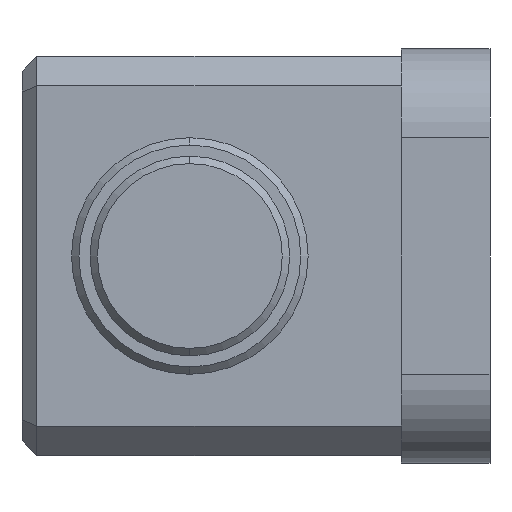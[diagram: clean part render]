
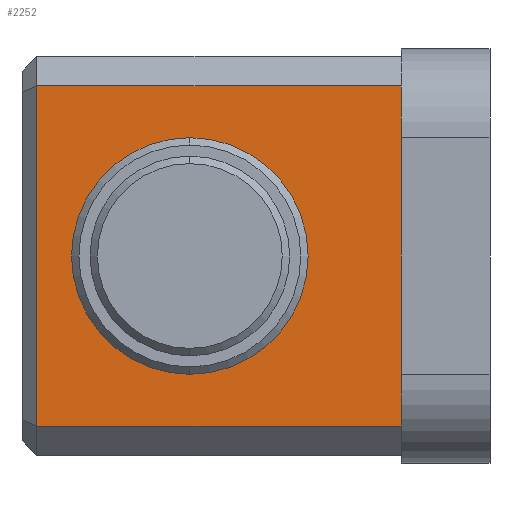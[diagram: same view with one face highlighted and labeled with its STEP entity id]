
A CAD part, left-side view. The second image highlights one B-rep face of the part: STEP entity #2252.
In plain terms, the highlighted planar face has unit normal (-1, 0, 0).
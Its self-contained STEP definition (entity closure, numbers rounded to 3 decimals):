
#84 = CARTESIAN_POINT ( 'NONE',  ( -7.5, 36.85, -11.5 ) ) ;
#97 = LINE ( 'NONE', #84, #2237 ) ;
#106 = DIRECTION ( 'NONE',  ( 0., 0., 1. ) ) ;
#118 = CIRCLE ( 'NONE', #1828, 8. ) ;
#133 = LINE ( 'NONE', #536, #483 ) ;
#146 = DIRECTION ( 'NONE',  ( 0., 0., -1. ) ) ;
#179 = AXIS2_PLACEMENT_3D ( 'NONE', #358, #1269, #1898 ) ;
#215 = ORIENTED_EDGE ( 'NONE', *, *, #2068, .F. ) ;
#313 = PLANE ( 'NONE',  #971 ) ;
#314 = EDGE_CURVE ( 'NONE', #1009, #877, #1936, .T. ) ;
#326 = DIRECTION ( 'NONE',  ( 0., -1., 0. ) ) ;
#358 = CARTESIAN_POINT ( 'NONE',  ( -7.5, 26.5, 0. ) ) ;
#378 = DIRECTION ( 'NONE',  ( 0., 0., 1. ) ) ;
#410 = VERTEX_POINT ( 'NONE', #1801 ) ;
#483 = VECTOR ( 'NONE', #1549, 1000. ) ;
#536 = CARTESIAN_POINT ( 'NONE',  ( -7.5, 37.85, 11.5 ) ) ;
#592 = CARTESIAN_POINT ( 'NONE',  ( -7.5, 26.5, 0. ) ) ;
#725 = ORIENTED_EDGE ( 'NONE', *, *, #314, .T. ) ;
#822 = VERTEX_POINT ( 'NONE', #1508 ) ;
#831 = EDGE_CURVE ( 'NONE', #410, #1079, #2274, .T. ) ;
#877 = VERTEX_POINT ( 'NONE', #1937 ) ;
#949 = CARTESIAN_POINT ( 'NONE',  ( -7.5, 12.2, 11.5 ) ) ;
#971 = AXIS2_PLACEMENT_3D ( 'NONE', #2242, #1854, #106 ) ;
#1009 = VERTEX_POINT ( 'NONE', #1804 ) ;
#1073 = EDGE_CURVE ( 'NONE', #822, #410, #97, .T. ) ;
#1079 = VERTEX_POINT ( 'NONE', #1470 ) ;
#1212 = EDGE_CURVE ( 'NONE', #877, #1009, #118, .T. ) ;
#1253 = FACE_BOUND ( 'NONE', #1822, .T. ) ;
#1269 = DIRECTION ( 'NONE',  ( 1., 0., 0. ) ) ;
#1274 = ORIENTED_EDGE ( 'NONE', *, *, #1073, .T. ) ;
#1300 = VECTOR ( 'NONE', #146, 1000. ) ;
#1342 = VECTOR ( 'NONE', #326, 1000. ) ;
#1361 = DIRECTION ( 'NONE',  ( 1., 0., 0. ) ) ;
#1470 = CARTESIAN_POINT ( 'NONE',  ( -7.5, 12.2, -11.5 ) ) ;
#1508 = CARTESIAN_POINT ( 'NONE',  ( -7.5, 36.85, 11.5 ) ) ;
#1549 = DIRECTION ( 'NONE',  ( 0., 1., 0. ) ) ;
#1801 = CARTESIAN_POINT ( 'NONE',  ( -7.5, 36.85, -11.5 ) ) ;
#1804 = CARTESIAN_POINT ( 'NONE',  ( -7.5, 26.5, 8. ) ) ;
#1822 = EDGE_LOOP ( 'NONE', ( #725, #2259 ) ) ;
#1828 = AXIS2_PLACEMENT_3D ( 'NONE', #592, #1361, #378 ) ;
#1851 = ORIENTED_EDGE ( 'NONE', *, *, #2053, .T. ) ;
#1854 = DIRECTION ( 'NONE',  ( -1., 0., 0. ) ) ;
#1898 = DIRECTION ( 'NONE',  ( 0., 0., 1. ) ) ;
#1921 = LINE ( 'NONE', #2286, #1300 ) ;
#1936 = CIRCLE ( 'NONE', #179, 8. ) ;
#1937 = CARTESIAN_POINT ( 'NONE',  ( -7.5, 26.5, -8. ) ) ;
#1954 = ORIENTED_EDGE ( 'NONE', *, *, #831, .T. ) ;
#2053 = EDGE_CURVE ( 'NONE', #2104, #822, #133, .T. ) ;
#2068 = EDGE_CURVE ( 'NONE', #2104, #1079, #1921, .T. ) ;
#2103 = CARTESIAN_POINT ( 'NONE',  ( -7.5, 12.2, -11.5 ) ) ;
#2104 = VERTEX_POINT ( 'NONE', #949 ) ;
#2205 = DIRECTION ( 'NONE',  ( 0., 0., -1. ) ) ;
#2237 = VECTOR ( 'NONE', #2205, 1000. ) ;
#2242 = CARTESIAN_POINT ( 'NONE',  ( -7.5, 37.85, 13.5 ) ) ;
#2252 = ADVANCED_FACE ( 'NONE', ( #1253, #2427 ), #313, .T. ) ;
#2259 = ORIENTED_EDGE ( 'NONE', *, *, #1212, .T. ) ;
#2274 = LINE ( 'NONE', #2103, #1342 ) ;
#2286 = CARTESIAN_POINT ( 'NONE',  ( -7.5, 12.2, -13.5 ) ) ;
#2403 = EDGE_LOOP ( 'NONE', ( #1851, #1274, #1954, #215 ) ) ;
#2427 = FACE_OUTER_BOUND ( 'NONE', #2403, .T. ) ;
